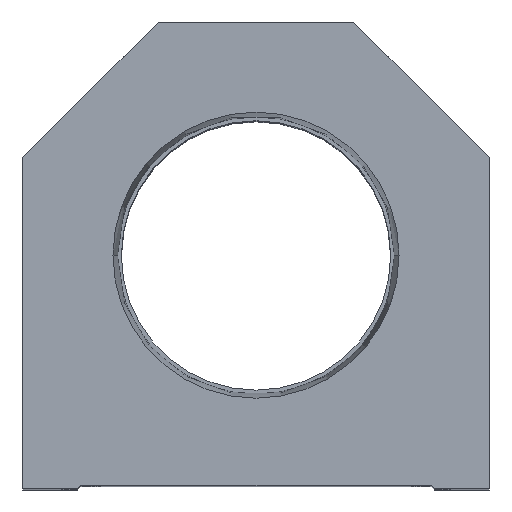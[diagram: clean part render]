
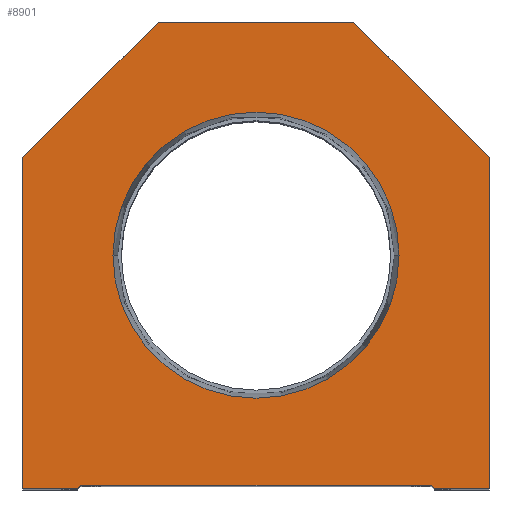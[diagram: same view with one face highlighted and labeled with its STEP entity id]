
A CAD part, top view. The second image highlights one B-rep face of the part: STEP entity #8901.
In plain terms, the highlighted planar face has unit normal (0, 0, 1).
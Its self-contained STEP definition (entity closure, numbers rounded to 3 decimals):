
#280 = DIRECTION ( 'NONE',  ( 1., 0., 0. ) ) ;
#693 = VERTEX_POINT ( 'NONE', #3276 ) ;
#902 = EDGE_LOOP ( 'NONE', ( #5609, #9472, #2613, #9496, #16985, #4400, #14442, #2078, #5528, #17853 ) ) ;
#927 = LINE ( 'NONE', #6581, #15491 ) ;
#1687 = AXIS2_PLACEMENT_3D ( 'NONE', #1867, #15445, #2246 ) ;
#1867 = CARTESIAN_POINT ( 'NONE',  ( 0., 38.1, 0. ) ) ;
#1870 = CARTESIAN_POINT ( 'NONE',  ( -28.6, 0.5, 0. ) ) ;
#1958 = EDGE_CURVE ( 'NONE', #17788, #16381, #17364, .T. ) ;
#2050 = LINE ( 'NONE', #1870, #18338 ) ;
#2078 = ORIENTED_EDGE ( 'NONE', *, *, #9721, .T. ) ;
#2243 = DIRECTION ( 'NONE',  ( 1., 0., 0. ) ) ;
#2246 = DIRECTION ( 'NONE',  ( 1., 0., 0. ) ) ;
#2613 = ORIENTED_EDGE ( 'NONE', *, *, #14850, .T. ) ;
#3276 = CARTESIAN_POINT ( 'NONE',  ( -16., 76.2, 0. ) ) ;
#4061 = CARTESIAN_POINT ( 'NONE',  ( 28.6, 0., 0. ) ) ;
#4115 = EDGE_CURVE ( 'NONE', #12804, #11331, #927, .T. ) ;
#4269 = CARTESIAN_POINT ( 'NONE',  ( -38.1, 54.1, 0. ) ) ;
#4400 = ORIENTED_EDGE ( 'NONE', *, *, #4115, .T. ) ;
#4579 = EDGE_CURVE ( 'NONE', #8790, #13602, #12220, .T. ) ;
#4894 = LINE ( 'NONE', #6256, #6805 ) ;
#5306 = DIRECTION ( 'NONE',  ( 1., 0., 0. ) ) ;
#5361 = VERTEX_POINT ( 'NONE', #9520 ) ;
#5391 = FACE_OUTER_BOUND ( 'NONE', #902, .T. ) ;
#5490 = PLANE ( 'NONE',  #12357 ) ;
#5528 = ORIENTED_EDGE ( 'NONE', *, *, #11862, .T. ) ;
#5609 = ORIENTED_EDGE ( 'NONE', *, *, #6724, .T. ) ;
#5729 = LINE ( 'NONE', #4269, #5982 ) ;
#5822 = DIRECTION ( 'NONE',  ( -0.707, -0.707, 0. ) ) ;
#5982 = VECTOR ( 'NONE', #5822, 1000. ) ;
#6050 = CARTESIAN_POINT ( 'NONE',  ( -14.55, 14.55, 0. ) ) ;
#6256 = CARTESIAN_POINT ( 'NONE',  ( 16., 76.2, 0. ) ) ;
#6305 = LINE ( 'NONE', #9393, #12636 ) ;
#6581 = CARTESIAN_POINT ( 'NONE',  ( 38.1, 0., 0. ) ) ;
#6724 = EDGE_CURVE ( 'NONE', #7821, #8790, #6305, .T. ) ;
#6805 = VECTOR ( 'NONE', #17937, 1000. ) ;
#7138 = DIRECTION ( 'NONE',  ( 0.707, -0.707, 0. ) ) ;
#7210 = EDGE_CURVE ( 'NONE', #11331, #8358, #18716, .T. ) ;
#7383 = DIRECTION ( 'NONE',  ( 0., 0., 1. ) ) ;
#7821 = VERTEX_POINT ( 'NONE', #11874 ) ;
#8125 = VECTOR ( 'NONE', #10594, 1000. ) ;
#8235 = ORIENTED_EDGE ( 'NONE', *, *, #11276, .F. ) ;
#8358 = VERTEX_POINT ( 'NONE', #10306 ) ;
#8574 = CARTESIAN_POINT ( 'NONE',  ( 38.1, 54.1, 0. ) ) ;
#8790 = VERTEX_POINT ( 'NONE', #13812 ) ;
#8901 = ADVANCED_FACE ( 'NONE', ( #18638, #5391 ), #5490, .T. ) ;
#8923 = CARTESIAN_POINT ( 'NONE',  ( 0., 38.1, 0. ) ) ;
#9049 = CIRCLE ( 'NONE', #1687, 23.374 ) ;
#9124 = CARTESIAN_POINT ( 'NONE',  ( -38.1, 0., 0. ) ) ;
#9393 = CARTESIAN_POINT ( 'NONE',  ( -28.6, 0., 0. ) ) ;
#9472 = ORIENTED_EDGE ( 'NONE', *, *, #4579, .T. ) ;
#9496 = ORIENTED_EDGE ( 'NONE', *, *, #1958, .T. ) ;
#9520 = CARTESIAN_POINT ( 'NONE',  ( 23.374, 38.1, 0. ) ) ;
#9721 = EDGE_CURVE ( 'NONE', #8358, #693, #4894, .T. ) ;
#9862 = ORIENTED_EDGE ( 'NONE', *, *, #10735, .F. ) ;
#9886 = CARTESIAN_POINT ( 'NONE',  ( 29.1, 0., 0. ) ) ;
#9924 = CIRCLE ( 'NONE', #17643, 23.374 ) ;
#10013 = VECTOR ( 'NONE', #7138, 1000. ) ;
#10306 = CARTESIAN_POINT ( 'NONE',  ( 16., 76.2, 0. ) ) ;
#10376 = LINE ( 'NONE', #9124, #11179 ) ;
#10594 = DIRECTION ( 'NONE',  ( 0.707, 0.707, 0. ) ) ;
#10735 = EDGE_CURVE ( 'NONE', #18007, #5361, #9924, .T. ) ;
#11003 = EDGE_LOOP ( 'NONE', ( #8235, #9862 ) ) ;
#11179 = VECTOR ( 'NONE', #18085, 1000. ) ;
#11276 = EDGE_CURVE ( 'NONE', #5361, #18007, #9049, .T. ) ;
#11286 = CARTESIAN_POINT ( 'NONE',  ( 28.6, 0.5, 0. ) ) ;
#11292 = CARTESIAN_POINT ( 'NONE',  ( 14.55, 14.55, 0. ) ) ;
#11331 = VERTEX_POINT ( 'NONE', #17174 ) ;
#11356 = EDGE_CURVE ( 'NONE', #16381, #12804, #14473, .T. ) ;
#11779 = DIRECTION ( 'NONE',  ( -0.707, 0.707, 0. ) ) ;
#11862 = EDGE_CURVE ( 'NONE', #693, #12972, #5729, .T. ) ;
#11874 = CARTESIAN_POINT ( 'NONE',  ( -38.1, 0., 0. ) ) ;
#12220 = LINE ( 'NONE', #6050, #8125 ) ;
#12357 = AXIS2_PLACEMENT_3D ( 'NONE', #14374, #15442, #2243 ) ;
#12490 = DIRECTION ( 'NONE',  ( 0., 1., 0. ) ) ;
#12636 = VECTOR ( 'NONE', #18169, 1000. ) ;
#12804 = VERTEX_POINT ( 'NONE', #14721 ) ;
#12972 = VERTEX_POINT ( 'NONE', #15375 ) ;
#13595 = CARTESIAN_POINT ( 'NONE',  ( -28.6, 0.5, 0. ) ) ;
#13602 = VERTEX_POINT ( 'NONE', #13595 ) ;
#13812 = CARTESIAN_POINT ( 'NONE',  ( -29.1, 0., 0. ) ) ;
#14374 = CARTESIAN_POINT ( 'NONE',  ( 0., 0., 0. ) ) ;
#14442 = ORIENTED_EDGE ( 'NONE', *, *, #7210, .T. ) ;
#14473 = LINE ( 'NONE', #4061, #17060 ) ;
#14721 = CARTESIAN_POINT ( 'NONE',  ( 38.1, 0., 0. ) ) ;
#14850 = EDGE_CURVE ( 'NONE', #13602, #17788, #2050, .T. ) ;
#15111 = VECTOR ( 'NONE', #11779, 1000. ) ;
#15375 = CARTESIAN_POINT ( 'NONE',  ( -38.1, 54.1, 0. ) ) ;
#15442 = DIRECTION ( 'NONE',  ( 0., 0., 1. ) ) ;
#15445 = DIRECTION ( 'NONE',  ( 0., 0., 1. ) ) ;
#15491 = VECTOR ( 'NONE', #12490, 1000. ) ;
#16381 = VERTEX_POINT ( 'NONE', #9886 ) ;
#16816 = DIRECTION ( 'NONE',  ( 1., 0., 0. ) ) ;
#16985 = ORIENTED_EDGE ( 'NONE', *, *, #11356, .T. ) ;
#17060 = VECTOR ( 'NONE', #5306, 1000. ) ;
#17078 = EDGE_CURVE ( 'NONE', #12972, #7821, #10376, .T. ) ;
#17174 = CARTESIAN_POINT ( 'NONE',  ( 38.1, 54.1, 0. ) ) ;
#17364 = LINE ( 'NONE', #11292, #10013 ) ;
#17643 = AXIS2_PLACEMENT_3D ( 'NONE', #8923, #7383, #280 ) ;
#17788 = VERTEX_POINT ( 'NONE', #11286 ) ;
#17853 = ORIENTED_EDGE ( 'NONE', *, *, #17078, .T. ) ;
#17937 = DIRECTION ( 'NONE',  ( -1., 0., 0. ) ) ;
#18007 = VERTEX_POINT ( 'NONE', #18343 ) ;
#18085 = DIRECTION ( 'NONE',  ( 0., -1., 0. ) ) ;
#18169 = DIRECTION ( 'NONE',  ( 1., 0., 0. ) ) ;
#18338 = VECTOR ( 'NONE', #16816, 1000. ) ;
#18343 = CARTESIAN_POINT ( 'NONE',  ( -23.374, 38.1, 0. ) ) ;
#18638 = FACE_BOUND ( 'NONE', #11003, .T. ) ;
#18716 = LINE ( 'NONE', #8574, #15111 ) ;
